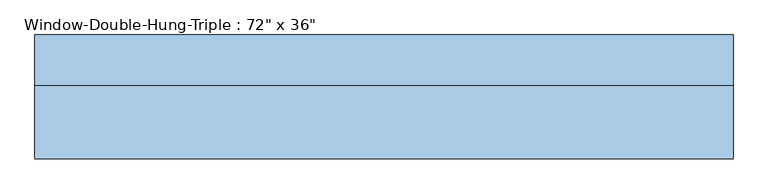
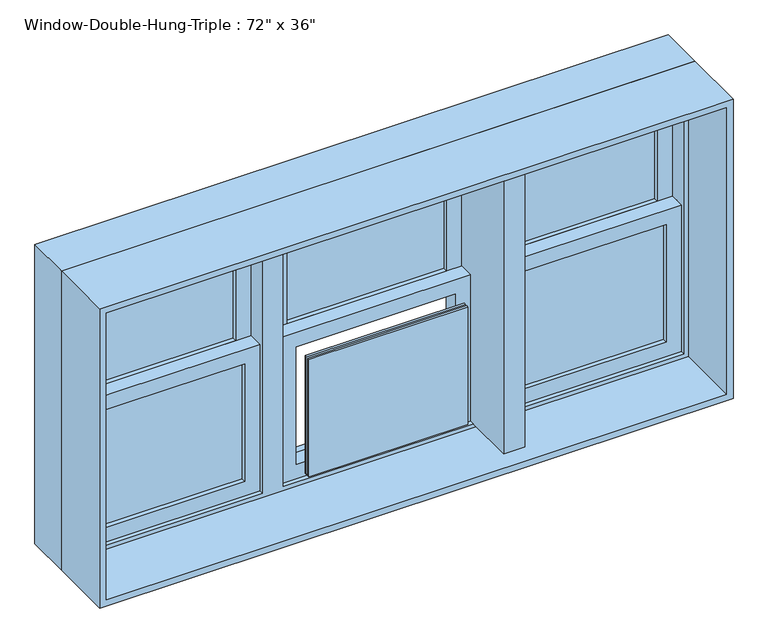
"""IFC4 building model written with IfcOpenShell, lengths in millimetres: window geometry."""

from ifc_helpers import new_model, si_unit, frame, origin, place, context, project, spatial, polyline, outline, extrude, faceted_brep, source, transform, mapped, element, save


def window_8e2d2a50(model_context):
    return source(origin(), model_context, "Body", "SolidModel", [
        extrude(outline(polyline([(1828.8, 914.4), (1828.8, -914.4), (914.4, -914.4), (914.4, 914.4), (1828.8, 914.4)]), holes=[polyline([(1809.75, 895.35), (933.45, 895.35), (933.45, -895.35), (1809.75, -895.35), (1809.75, 895.35)])]), frame((0.0, -152.4, 0.0), z_axis=(0.0, 1.0, 0.0), x_axis=(0.0, 0.0, 1.0)), (0.0, 0.0, 1.0), 190.5),
        extrude(outline(polyline([(1797.05, 334.4333333), (1349.375, 334.4333333), (1349.375, 882.65), (1797.05, 882.65), (1797.05, 334.4333333)]), holes=[polyline([(1752.6, 838.2), (1393.825, 838.2), (1393.825, 378.8833333), (1752.6, 378.8833333), (1752.6, 838.2)])]), frame((0.0, 95.25, 0.0), z_axis=(0.0, 1.0, 0.0), x_axis=(0.0, 0.0, 1.0)), (0.0, 0.0, 1.0), 44.45),
        extrude(outline(polyline([(1393.825, 334.4333333), (946.15, 334.4333333), (946.15, 882.65), (1393.825, 882.65), (1393.825, 334.4333333)]), holes=[polyline([(1349.375, 838.2), (990.6, 838.2), (990.6, 378.8833333), (1349.375, 378.8833333), (1349.375, 838.2)])]), frame((0.0, 50.8, 0.0), z_axis=(0.0, 1.0, 0.0), x_axis=(0.0, 0.0, 1.0)), (0.0, 0.0, 1.0), 44.45),
        extrude(outline(polyline([(838.2, 127.0), (838.2, 120.65), (378.8833333, 120.65), (378.8833333, 127.0), (838.2, 127.0)])), frame((0.0, 0.0, 1393.825), z_axis=(0.0, 0.0, 1.0), x_axis=(1.0, 0.0, 0.0)), (0.0, 0.0, 1.0), 358.775),
        extrude(outline(polyline([(378.8833333, 114.3), (838.2, 114.3), (838.2, 107.95), (378.8833333, 107.95), (378.8833333, 114.3)])), frame((0.0, 0.0, 1393.825), z_axis=(0.0, 0.0, 1.0), x_axis=(1.0, 0.0, 0.0)), (0.0, 0.0, 1.0), 358.775),
        extrude(outline(polyline([(838.2, 82.55), (838.2, 76.2), (378.8833333, 76.2), (378.8833333, 82.55), (838.2, 82.55)])), frame((0.0, 0.0, 990.6), z_axis=(0.0, 0.0, 1.0), x_axis=(1.0, 0.0, 0.0)), (0.0, 0.0, 1.0), 358.775),
        extrude(outline(polyline([(378.8833333, 69.85), (838.2, 69.85), (838.2, 63.5), (378.8833333, 63.5), (378.8833333, 69.85)])), frame((0.0, 0.0, 990.6), z_axis=(0.0, 0.0, 1.0), x_axis=(1.0, 0.0, 0.0)), (0.0, 0.0, 1.0), 358.775),
        extrude(outline(polyline([(1797.05, -882.65), (1349.375, -882.65), (1349.375, -334.4333333), (1797.05, -334.4333333), (1797.05, -882.65)]), holes=[polyline([(1752.6, -378.8833333), (1393.825, -378.8833333), (1393.825, -838.2), (1752.6, -838.2), (1752.6, -378.8833333)])]), frame((0.0, 95.25, 0.0), z_axis=(0.0, 1.0, 0.0), x_axis=(0.0, 0.0, 1.0)), (0.0, 0.0, 1.0), 44.45),
        extrude(outline(polyline([(1393.825, -882.65), (946.15, -882.65), (946.15, -334.4333333), (1393.825, -334.4333333), (1393.825, -882.65)]), holes=[polyline([(1349.375, -378.8833333), (990.6, -378.8833333), (990.6, -838.2), (1349.375, -838.2), (1349.375, -378.8833333)])]), frame((0.0, 50.8, 0.0), z_axis=(0.0, 1.0, 0.0), x_axis=(0.0, 0.0, 1.0)), (0.0, 0.0, 1.0), 44.45),
        extrude(outline(polyline([(-838.2, 127.0), (-378.8833333, 127.0), (-378.8833333, 120.65), (-838.2, 120.65), (-838.2, 127.0)])), frame((0.0, 0.0, 1393.825), z_axis=(0.0, 0.0, 1.0), x_axis=(1.0, 0.0, 0.0)), (0.0, 0.0, 1.0), 358.775),
        extrude(outline(polyline([(-378.8833333, 114.3), (-378.8833333, 107.95), (-838.2, 107.95), (-838.2, 114.3), (-378.8833333, 114.3)])), frame((0.0, 0.0, 1393.825), z_axis=(0.0, 0.0, 1.0), x_axis=(1.0, 0.0, 0.0)), (0.0, 0.0, 1.0), 358.775),
        extrude(outline(polyline([(-838.2, 82.55), (-378.8833333, 82.55), (-378.8833333, 76.2), (-838.2, 76.2), (-838.2, 82.55)])), frame((0.0, 0.0, 990.6), z_axis=(0.0, 0.0, 1.0), x_axis=(1.0, 0.0, 0.0)), (0.0, 0.0, 1.0), 358.775),
        extrude(outline(polyline([(-378.8833333, 69.85), (-378.8833333, 63.5), (-838.2, 63.5), (-838.2, 69.85), (-378.8833333, 69.85)])), frame((0.0, 0.0, 990.6), z_axis=(0.0, 0.0, 1.0), x_axis=(1.0, 0.0, 0.0)), (0.0, 0.0, 1.0), 358.775),
        faceted_brep([(914.4, 38.1, 1828.8), (914.4, 171.45, 1828.8), (-914.4, 171.45, 1828.8), (-914.4, 38.1, 1828.8), (882.65, 171.45, 1797.05), (882.65, 38.1, 1797.05), (334.4333333, 38.1, 1797.05), (334.4333333, 171.45, 1797.05), (-882.65, 38.1, 1797.05), (-882.65, 171.45, 1797.05), (-334.4333333, 171.45, 1797.05), (-334.4333333, 38.1, 1797.05), (274.1083333, 38.1, 1797.05), (-274.1083333, 38.1, 1797.05), (-274.1083333, 171.45, 1797.05), (274.1083333, 171.45, 1797.05), (-914.4, 171.45, 914.4), (-914.4, 38.1, 914.4), (-882.65, 38.1, 946.15), (-882.65, 171.45, 946.15), (914.4, 171.45, 914.4), (914.4, 38.1, 914.4), (-334.4333333, 38.1, 946.15), (-334.4333333, 171.45, 946.15), (882.65, 38.1, 946.15), (882.65, 171.45, 946.15), (334.4333333, 171.45, 946.15), (334.4333333, 38.1, 946.15), (-274.1083333, 38.1, 946.15), (274.1083333, 38.1, 946.15), (274.1083333, 171.45, 946.15), (-274.1083333, 171.45, 946.15), (334.4333333, -114.3, 1797.05), (334.4333333, -114.3, 946.15), (274.1083333, -114.3, 946.15), (274.1083333, -114.3, 1797.05)], [[[0, 1, 2, 3]], [[4, 5, 6, 7]], [[8, 9, 10, 11]], [[12, 13, 14, 15]], [[3, 2, 16, 17]], [[9, 8, 18, 19]], [[17, 16, 20, 21]], [[19, 18, 22, 23]], [[24, 25, 26, 27]], [[28, 29, 30, 31]], [[1, 0, 21, 20]], [[0, 3, 17, 21], [18, 8, 11, 22], [29, 28, 13, 12, 6, 5, 24, 27]], [[5, 4, 25, 24]], [[2, 1, 20, 16], [4, 7, 26, 25], [15, 14, 31, 30], [9, 19, 23, 10]], [[10, 23, 22, 11]], [[13, 28, 31, 14]], [[32, 33, 27, 26, 7, 6]], [[34, 35, 12, 15, 30, 29]], [[35, 32, 6, 12]], [[33, 34, 29, 27]], [[32, 35, 34, 33]]]),
        extrude(outline(polyline([(1797.05, -274.1083333), (1349.375, -274.1083333), (1349.375, 274.1083333), (1797.05, 274.1083333), (1797.05, -274.1083333)]), holes=[polyline([(1752.6, 229.6583333), (1393.825, 229.6583333), (1393.825, -229.6583333), (1752.6, -229.6583333), (1752.6, 229.6583333)])]), frame((0.0, 95.25, 0.0), z_axis=(0.0, 1.0, 0.0), x_axis=(0.0, 0.0, 1.0)), (0.0, 0.0, 1.0), 44.45),
        extrude(outline(polyline([(1393.825, -274.1083333), (946.15, -274.1083333), (946.15, 274.1083333), (1393.825, 274.1083333), (1393.825, -274.1083333)]), holes=[polyline([(1349.375, 229.6583333), (990.6, 229.6583333), (990.6, -229.6583333), (1349.375, -229.6583333), (1349.375, 229.6583333)])]), frame((0.0, 50.8, 0.0), z_axis=(0.0, 1.0, 0.0), x_axis=(0.0, 0.0, 1.0)), (0.0, 0.0, 1.0), 44.45),
        extrude(outline(polyline([(229.6583333, 127.0), (229.6583333, 120.65), (-229.6583333, 120.65), (-229.6583333, 127.0), (229.6583333, 127.0)])), frame((0.0, 0.0, 1393.825), z_axis=(0.0, 0.0, 1.0), x_axis=(1.0, 0.0, 0.0)), (0.0, 0.0, 1.0), 358.775),
        extrude(outline(polyline([(-229.6583333, 114.3), (229.6583333, 114.3), (229.6583333, 107.95), (-229.6583333, 107.95), (-229.6583333, 114.3)])), frame((0.0, 0.0, 1393.825), z_axis=(0.0, 0.0, 1.0), x_axis=(1.0, 0.0, 0.0)), (0.0, 0.0, 1.0), 358.775),
        extrude(outline(polyline([(229.6583333, 6.35), (229.6583333, 0.0), (-229.6583333, 0.0), (-229.6583333, 6.35), (229.6583333, 6.35)])), frame((0.0, 0.0, 990.6), z_axis=(0.0, 0.0, 1.0), x_axis=(1.0, 0.0, 0.0)), (0.0, 0.0, 1.0), 358.775),
        extrude(outline(polyline([(-229.6583333, -6.35), (229.6583333, -6.35), (229.6583333, -12.7), (-229.6583333, -12.7), (-229.6583333, -6.35)])), frame((0.0, 0.0, 990.6), z_axis=(0.0, 0.0, 1.0), x_axis=(1.0, 0.0, 0.0)), (0.0, 0.0, 1.0), 358.775),
    ])


if __name__ == "__main__":
    model = new_model("IFC4")
    model_context = context("Model", 3, world=origin())
    ifc_project = project(units=[si_unit("LENGTHUNIT", "METRE", prefix="MILLI")], contexts=[model_context])
    site = spatial("IfcSite", under=ifc_project)
    building = spatial("IfcBuilding", under=site)
    placement = place(None, origin())
    window_shape = window_8e2d2a50(model_context)
    element("IfcWindow", 1, ObjectType="Window-Double-Hung-Triple : 72\" x 36\"", at=placement, inside=building, context=model_context, shape_type="MappedRepresentation", body=[
        mapped(window_shape, transform((0.0, 0.0, 0.0), x_axis=(1.0, 0.0, 0.0), y_axis=(0.0, 1.0, 0.0), z_axis=(0.0, 0.0, 1.0))),
    ])
    save(model, "model.ifc")
